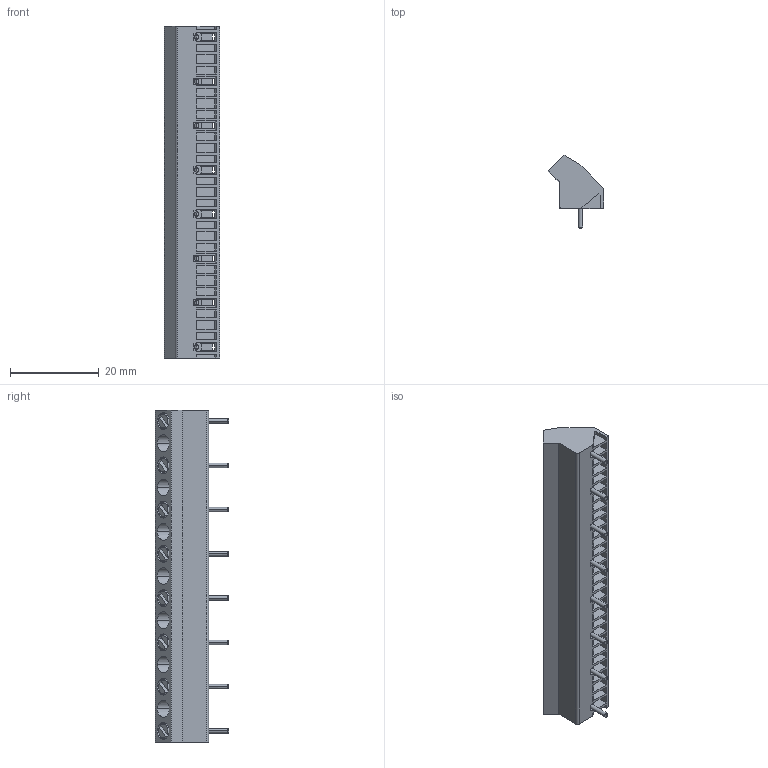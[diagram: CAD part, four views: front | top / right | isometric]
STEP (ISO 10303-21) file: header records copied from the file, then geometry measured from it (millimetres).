
FILE_DESCRIPTION (( 'STEP AP203' ), '1' );
FILE_NAME ('975-08.STEP', '2019-01-26T16:25:07', ( '' ), ( '' ), 'SwSTEP 2.0', 'SolidWorks 2016', '' );
FILE_SCHEMA (( 'CONFIG_CONTROL_DESIGN' ));
Length unit declared in the file: millimetre
Products named in the file (1): 975-08
Bounding box: 12.5 x 16.5 x 75 mm (x, y, z)
Volume: 4609.3 mm3; surface area: 6194.3 mm2
Topology: 1 solids, 1 shells, 904 faces, 2641 edges, 1720 vertices
Faces by surface type: plane 608, cylinder 152, cone 80, torus 48, bspline 16
Entity records: 31076 total; most frequent: CARTESIAN_POINT 7438, ORIENTED_EDGE 5282, DIRECTION 4501, EDGE_CURVE 2641, VERTEX_POINT 1720, VECTOR 1671, LINE 1671, AXIS2_PLACEMENT_3D 1415
